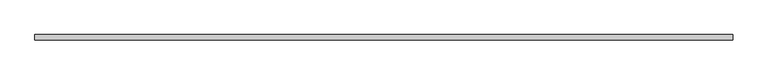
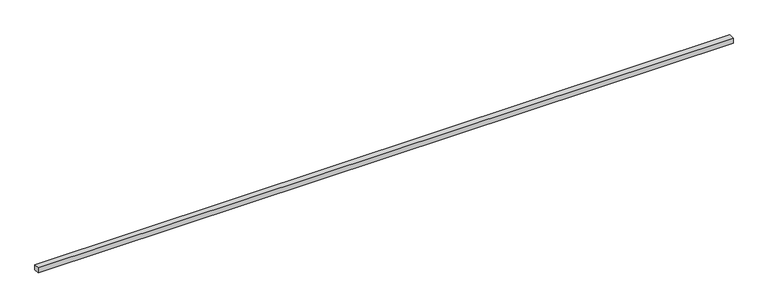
"""IFC4 building model written with IfcOpenShell, lengths in millimetres: proxy geometry, Кабель-каналы_магистральные_цвет-белый : Кабель-канал магистральный 16х16 белый."""

from ifc_helpers import new_model, si_unit, origin, origin_with_axes, place, context, project, spatial, polyline, outline, extrude, source, transform, mapped, element, save


def generic_models_e0031f47(model_context):
    return source(origin(), model_context, "Body", "SweptSolid", [
        extrude(outline(polyline([(2000.0, -16.0), (0.0, -16.0), (0.0, 0.0), (2000.0, 0.0), (2000.0, -16.0)])), origin_with_axes(), (0.0, 0.0, 1.0), 16.0),
    ])


if __name__ == "__main__":
    model = new_model("IFC4")
    model_context = context("Model", 3, world=origin())
    ifc_project = project(units=[si_unit("LENGTHUNIT", "METRE", prefix="MILLI")], contexts=[model_context])
    site = spatial("IfcSite", under=ifc_project)
    building = spatial("IfcBuilding", under=site)
    placement = place(None, origin())
    generic_models_shape = generic_models_e0031f47(model_context)
    element("IfcBuildingElementProxy", 1, Name="Кабель-каналы_магистральные_цвет-белый : Кабель-канал магистральный 16х16 белый", ObjectType="Кабель-каналы_магистральные_цвет-белый : Кабель-канал магистральный 16х16 белый", at=placement, inside=building, context=model_context, shape_type="MappedRepresentation", body=[
        mapped(generic_models_shape, transform((0.0, 0.0, 0.0), x_axis=(1.0, 0.0, 0.0), y_axis=(0.0, 1.0, 0.0), z_axis=(0.0, 0.0, 1.0))),
    ])
    save(model, "model.ifc")
